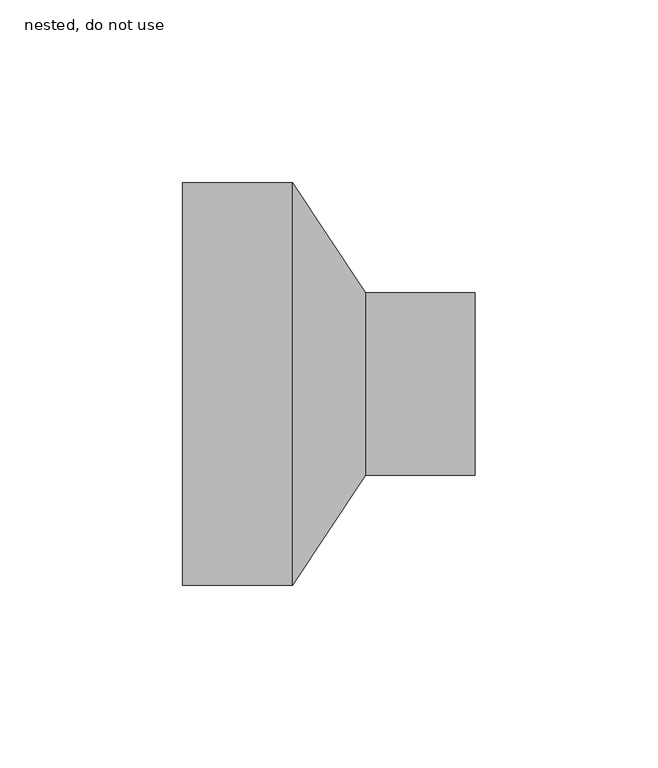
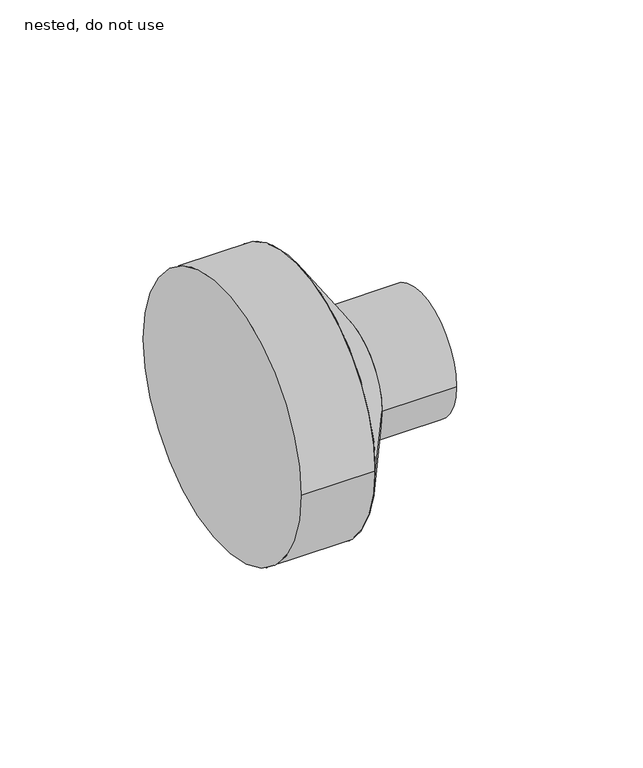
"""IFC4 building model written with IfcOpenShell, lengths in millimetres: pipe fitting geometry, ZZZ_do no use_PIF_HDPE reducer -SH_Akatherm : nested, do not use."""

from ifc_helpers import new_model, si_unit, point, frame, origin, origin_2d, place, context, project, spatial, polyline, circle_curve, trimmed, segment, composite_curve, outline, extrude, source, transform, mapped, element, save
from ifc_brep_helpers import plane_surface, revolved_surface, advanced_brep


def nested_do_not_use_cade87c8(model_context):
    return source(origin(), model_context, "Body", "SolidModel", [
        advanced_brep(
        [(10.0, -25.0, 0.0), (10.0, 25.0, 0.0), (-10.0, -55.0, 0.0), (-10.0, 55.0, 0.0)],
        [
            (0, 1, circle_curve(frame((10.0, 0.0, 0.0), z_axis=(1.0, -3.5548497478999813e-12, 0.0), x_axis=(-3.5549007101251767e-12, -1.0, 0.0)), 25.0)),
            (1, 0, circle_curve(frame((10.0, 0.0, 0.0), z_axis=(1.0, -3.5548497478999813e-12, 0.0), x_axis=(3.5549007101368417e-12, 1.0, 0.0)), 25.0)),
            (2, 3, circle_curve(frame((-10.0, 0.0, 0.0), z_axis=(-1.0, 3.5548497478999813e-12, 0.0), x_axis=(3.5549007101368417e-12, 1.0, 0.0)), 55.0)),
            (3, 2, circle_curve(frame((-10.0, 0.0, 0.0), z_axis=(-1.0, 3.5548497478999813e-12, 0.0), x_axis=(-3.5549007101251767e-12, -1.0, 0.0)), 55.0)),
            (3, 1),
            (0, 2),
        ],
        [
            plane_surface(frame((10.0, 0.0, 0.0), z_axis=(1.0, 0.0, 0.0), x_axis=(0.0, 0.0, -1.0))),
            plane_surface(frame((-10.0, 0.0, 0.0), z_axis=(-1.0, 0.0, 0.0), x_axis=(0.0, 0.0, -1.0))),
            revolved_surface(polyline([(9.999999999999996, -25.00000002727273, 0.0), (-10.00000000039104, -55.00000000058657, 0.0)]), (26.6666667, 0.0, 0.0), (-1.0, 3.5548497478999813e-12, 0.0)),
            revolved_surface(polyline([(10.000000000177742, 25.000000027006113, 0.0), (-10.0, 55.0, 0.0)]), (26.6666667, 0.0, 0.0), (-1.0, 3.5548497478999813e-12, 0.0)),
        ],
        [
            (0, [[1, 2]]),
            (1, [[3, 4]]),
            (2, [[-4, 5, -1, 6]]),
            (3, [[-3, -6, -2, -5]]),
        ],
    ),
        extrude(outline(composite_curve([segment(trimmed(circle_curve(origin_2d(), 25.0), [point((-25.0, 0.0))], [point((25.0, 0.0))], False, "CARTESIAN"), True, "CONTINUOUS"), segment(trimmed(circle_curve(origin_2d(), 25.0), [point((25.0, 0.0))], [point((-25.0, 0.0))], False, "CARTESIAN"), True, "CONTINUOUS")], self_intersect=False)), frame((10.0, 0.0, 0.0), z_axis=(1.0, 0.0, 0.0), x_axis=(0.0, 1.0, 0.0)), (0.0, 0.0, 1.0), 30.0),
        extrude(outline(composite_curve([segment(trimmed(circle_curve(origin_2d(), 55.0), [point((-55.0, 0.0))], [point((55.0, 0.0))], False, "CARTESIAN"), True, "CONTINUOUS"), segment(trimmed(circle_curve(origin_2d(), 55.0), [point((55.0, 0.0))], [point((-55.0, 0.0))], False, "CARTESIAN"), True, "CONTINUOUS")], self_intersect=False)), frame((-40.0, 0.0, 0.0), z_axis=(1.0, 0.0, 0.0), x_axis=(0.0, 1.0, 0.0)), (0.0, 0.0, 1.0), 30.0),
    ])


if __name__ == "__main__":
    model = new_model("IFC4")
    model_context = context("Model", 3, world=origin())
    ifc_project = project(units=[si_unit("LENGTHUNIT", "METRE", prefix="MILLI")], contexts=[model_context])
    site = spatial("IfcSite", under=ifc_project)
    building = spatial("IfcBuilding", under=site)
    placement = place(None, origin())
    nested_do_not_use_shape = nested_do_not_use_cade87c8(model_context)
    element("IfcPipeFitting", 1, ObjectType="ZZZ_do no use_PIF_HDPE reducer -SH_Akatherm : nested, do not use", at=placement, inside=building, context=model_context, shape_type="MappedRepresentation", body=[
        mapped(nested_do_not_use_shape, transform((0.0, 0.0, 0.0), x_axis=(1.0, 0.0, 0.0), y_axis=(0.0, 1.0, 0.0), z_axis=(0.0, 0.0, 1.0))),
    ])
    save(model, "model.ifc")
